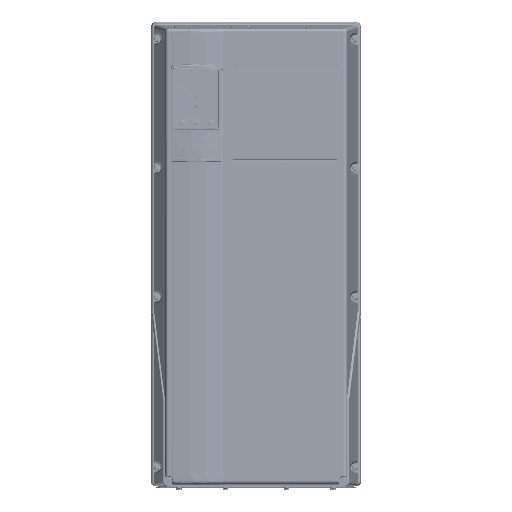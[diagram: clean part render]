
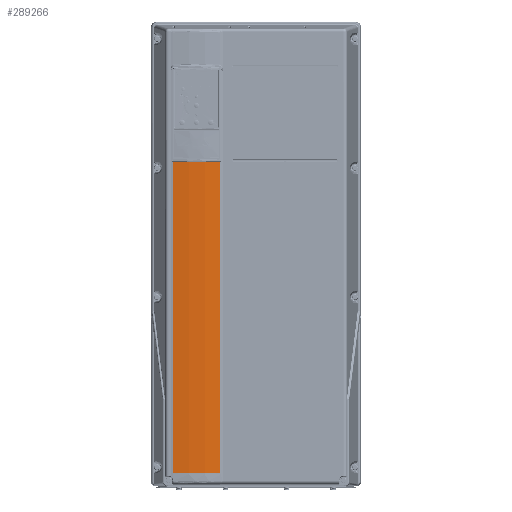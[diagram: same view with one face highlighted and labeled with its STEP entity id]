
A CAD part, top view. The second image highlights one B-rep face of the part: STEP entity #289266.
In plain terms, the highlighted cylindrical face has radius 279.95 mm (diameter 559.9 mm), a partial arc.
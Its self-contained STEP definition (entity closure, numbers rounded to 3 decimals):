
#90102=CARTESIAN_POINT('',(-87.,134.493,-132.6));
#90103=DIRECTION('',(0.,-1.,0.));
#90104=DIRECTION('',(0.124,0.,0.992));
#90105=AXIS2_PLACEMENT_3D('',#90102,#90103,#90104);
#90107=DIRECTION('',(0.,1.,0.));
#90108=VECTOR('',#90107,455.8);
#90109=CARTESIAN_POINT('',(-121.791,-321.307,
145.18));
#90110=LINE('',#90109,#90108);
#90111=DIRECTION('',(0.,1.,0.));
#90112=VECTOR('',#90111,455.8);
#90113=CARTESIAN_POINT('',(-52.209,-321.307,
145.18));
#90114=LINE('',#90113,#90112);
#90119=CARTESIAN_POINT('',(-87.,-321.307,-132.6));
#90120=DIRECTION('',(0.,-1.,0.));
#90121=DIRECTION('',(0.124,0.,0.992));
#90122=AXIS2_PLACEMENT_3D('',#90119,#90120,#90121);
#99590=CARTESIAN_POINT('',(-52.209,134.493,
145.18));
#99591=CARTESIAN_POINT('',(-121.791,134.493,
145.18));
#99592=VERTEX_POINT('',#99590);
#99593=VERTEX_POINT('',#99591);
#99594=CARTESIAN_POINT('',(-52.209,-321.307,
145.18));
#99595=CARTESIAN_POINT('',(-121.791,-321.307,
145.18));
#99596=VERTEX_POINT('',#99594);
#99597=VERTEX_POINT('',#99595);
#289253=CARTESIAN_POINT('',(-87.,134.493,-132.6));
#289254=DIRECTION('',(0.,1.,0.));
#289255=DIRECTION('',(-1.,0.,0.));
#289256=AXIS2_PLACEMENT_3D('',#289253,#289254,#289255);
#289257=CYLINDRICAL_SURFACE('',#289256,279.95);
#289258=ORIENTED_EDGE('',*,*,#289220,.F.);
#289260=ORIENTED_EDGE('',*,*,#289259,.F.);
#289262=ORIENTED_EDGE('',*,*,#289261,.T.);
#289263=ORIENTED_EDGE('',*,*,#289238,.T.);
#289264=EDGE_LOOP('',(#289258,#289260,#289262,#289263));
#289265=FACE_OUTER_BOUND('',#289264,.F.);
#90106=CIRCLE('',#90105,279.95);
#90123=CIRCLE('',#90122,279.95);
#289220=EDGE_CURVE('',#99592,#99593,#90106,.T.);
#289238=EDGE_CURVE('',#99597,#99593,#90110,.T.);
#289259=EDGE_CURVE('',#99596,#99592,#90114,.T.);
#289261=EDGE_CURVE('',#99596,#99597,#90123,.T.);
#289266=ADVANCED_FACE('',(#289265),#289257,.T.);
